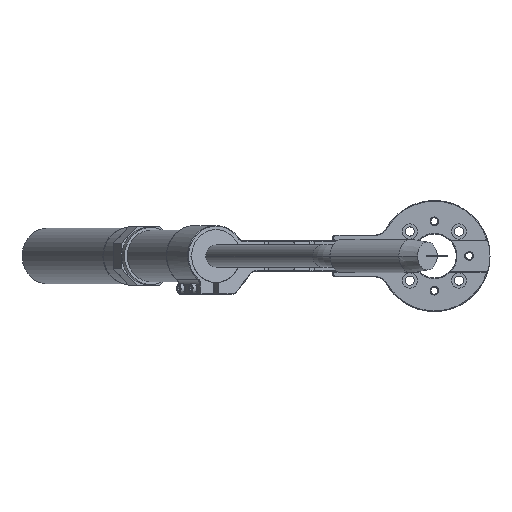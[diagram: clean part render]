
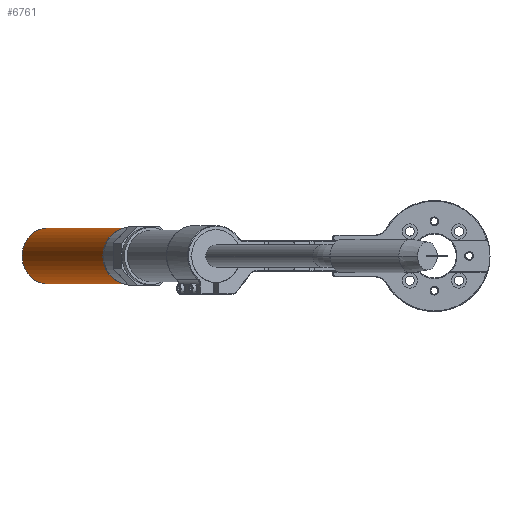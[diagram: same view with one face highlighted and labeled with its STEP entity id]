
A CAD part, front view. The second image highlights one B-rep face of the part: STEP entity #6761.
In plain terms, the highlighted cylindrical face has radius 20 mm (diameter 40 mm), a partial arc.
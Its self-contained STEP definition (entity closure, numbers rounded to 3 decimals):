
#248 = LINE ( 'NONE', #8700, #1876 ) ;
#417 = ORIENTED_EDGE ( 'NONE', *, *, #1475, .F. ) ;
#452 = CARTESIAN_POINT ( 'NONE',  ( -178.587, 64.918, -9. ) ) ;
#511 = LINE ( 'NONE', #3447, #1273 ) ;
#962 = EDGE_LOOP ( 'NONE', ( #3957, #3487, #7429, #417 ) ) ;
#1273 = VECTOR ( 'NONE', #3474, 1000. ) ;
#1312 = FACE_OUTER_BOUND ( 'NONE', #962, .T. ) ;
#1457 = DIRECTION ( 'NONE',  ( 0., 0., 1. ) ) ;
#1475 = EDGE_CURVE ( 'NONE', #3343, #5611, #5876, .T. ) ;
#1485 = CARTESIAN_POINT ( 'NONE',  ( -178.587, 64.918, 11. ) ) ;
#1876 = VECTOR ( 'NONE', #4671, 1000. ) ;
#2028 = AXIS2_PLACEMENT_3D ( 'NONE', #1485, #2293, #1457 ) ;
#2293 = DIRECTION ( 'NONE',  ( -0.391, 0.921, 0. ) ) ;
#3194 = CYLINDRICAL_SURFACE ( 'NONE', #2028, 20. ) ;
#3339 = EDGE_CURVE ( 'NONE', #5478, #5611, #248, .T. ) ;
#3343 = VERTEX_POINT ( 'NONE', #6336 ) ;
#3447 = CARTESIAN_POINT ( 'NONE',  ( -178.587, 64.918, -9. ) ) ;
#3474 = DIRECTION ( 'NONE',  ( -0.391, 0.921, 0. ) ) ;
#3487 = ORIENTED_EDGE ( 'NONE', *, *, #7318, .T. ) ;
#3578 = CARTESIAN_POINT ( 'NONE',  ( -178.587, 64.918, 31. ) ) ;
#3598 = VERTEX_POINT ( 'NONE', #452 ) ;
#3957 = ORIENTED_EDGE ( 'NONE', *, *, #5344, .F. ) ;
#4577 = DIRECTION ( 'NONE',  ( 0., 0., 1. ) ) ;
#4671 = DIRECTION ( 'NONE',  ( -0.391, 0.921, 0. ) ) ;
#4687 = DIRECTION ( 'NONE',  ( -0.391, 0.921, 0. ) ) ;
#5176 = DIRECTION ( 'NONE',  ( -0.391, 0.921, 0. ) ) ;
#5344 = EDGE_CURVE ( 'NONE', #3598, #3343, #511, .T. ) ;
#5478 = VERTEX_POINT ( 'NONE', #3578 ) ;
#5611 = VERTEX_POINT ( 'NONE', #7254 ) ;
#5876 = CIRCLE ( 'NONE', #8995, 20. ) ;
#6336 = CARTESIAN_POINT ( 'NONE',  ( -237.197, 202.993, -9. ) ) ;
#6761 = ADVANCED_FACE ( 'NONE', ( #1312 ), #3194, .T. ) ;
#6795 = CARTESIAN_POINT ( 'NONE',  ( -237.197, 202.993, 11. ) ) ;
#6878 = CIRCLE ( 'NONE', #7287, 20. ) ;
#7254 = CARTESIAN_POINT ( 'NONE',  ( -237.197, 202.993, 31. ) ) ;
#7287 = AXIS2_PLACEMENT_3D ( 'NONE', #7744, #4687, #4577 ) ;
#7318 = EDGE_CURVE ( 'NONE', #3598, #5478, #6878, .T. ) ;
#7429 = ORIENTED_EDGE ( 'NONE', *, *, #3339, .T. ) ;
#7744 = CARTESIAN_POINT ( 'NONE',  ( -178.587, 64.918, 11. ) ) ;
#8700 = CARTESIAN_POINT ( 'NONE',  ( -178.587, 64.918, 31. ) ) ;
#8995 = AXIS2_PLACEMENT_3D ( 'NONE', #6795, #5176, #9903 ) ;
#9903 = DIRECTION ( 'NONE',  ( 0., 0., 1. ) ) ;
